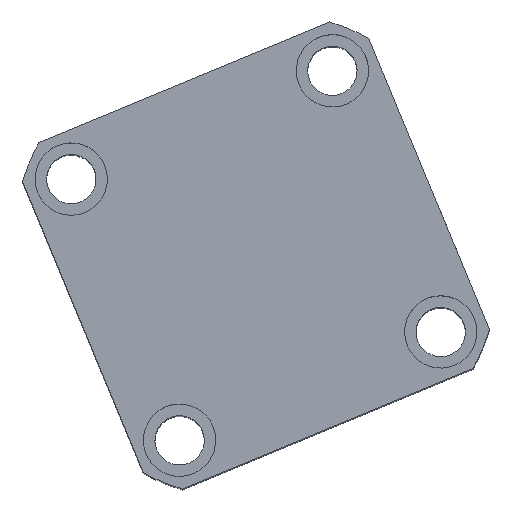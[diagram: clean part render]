
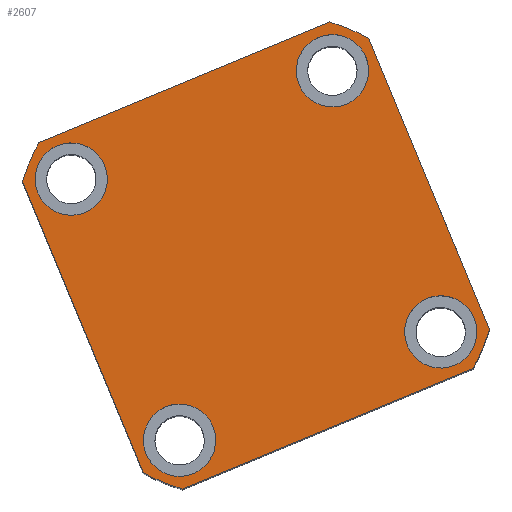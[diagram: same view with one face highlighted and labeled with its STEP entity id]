
A CAD part, top view. The second image highlights one B-rep face of the part: STEP entity #2607.
In plain terms, the highlighted planar face has unit normal (0, 0, 1) as drawn and (0, 0, -1) by its records, which use the part's own axes.
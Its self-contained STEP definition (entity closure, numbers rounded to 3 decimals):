
#21 = VERTEX_POINT ( 'NONE', #3861 ) ;
#61 = FACE_BOUND ( 'NONE', #3779, .T. ) ;
#132 = AXIS2_PLACEMENT_3D ( 'NONE', #8620, #1623, #9794 ) ;
#195 = CIRCLE ( 'NONE', #336, 11. ) ;
#207 = DIRECTION ( 'NONE',  ( 0., 0., 1. ) ) ;
#239 = ORIENTED_EDGE ( 'NONE', *, *, #6251, .F. ) ;
#281 = EDGE_CURVE ( 'NONE', #13582, #9256, #2935, .T. ) ;
#336 = AXIS2_PLACEMENT_3D ( 'NONE', #7060, #15235, #8238 ) ;
#372 = DIRECTION ( 'NONE',  ( 0., 0., -1. ) ) ;
#461 = DIRECTION ( 'NONE',  ( 0., -1., 0. ) ) ;
#669 = DIRECTION ( 'NONE',  ( 1., 0., 0. ) ) ;
#812 = CIRCLE ( 'NONE', #132, 74.5 ) ;
#896 = CARTESIAN_POINT ( 'NONE',  ( 57., 57., 0. ) ) ;
#1130 = EDGE_CURVE ( 'NONE', #11607, #12630, #3074, .T. ) ;
#1228 = EDGE_CURVE ( 'NONE', #2568, #14578, #7445, .T. ) ;
#1349 = LINE ( 'NONE', #1669, #13451 ) ;
#1401 = CARTESIAN_POINT ( 'NONE',  ( 0., 0., 0. ) ) ;
#1446 = PLANE ( 'NONE',  #15055 ) ;
#1603 = CARTESIAN_POINT ( 'NONE',  ( 47.971, -57., 0. ) ) ;
#1623 = DIRECTION ( 'NONE',  ( 0., 0., 1. ) ) ;
#1669 = CARTESIAN_POINT ( 'NONE',  ( -57., 57., 0. ) ) ;
#1793 = VERTEX_POINT ( 'NONE', #2803 ) ;
#1884 = EDGE_CURVE ( 'NONE', #21, #11607, #11847, .T. ) ;
#1931 = CARTESIAN_POINT ( 'NONE',  ( 32., -43., 0. ) ) ;
#2049 = CIRCLE ( 'NONE', #9213, 11. ) ;
#2095 = CARTESIAN_POINT ( 'NONE',  ( -43., 43., 0. ) ) ;
#2124 = CIRCLE ( 'NONE', #8336, 11. ) ;
#2332 = ORIENTED_EDGE ( 'NONE', *, *, #6796, .F. ) ;
#2337 = DIRECTION ( 'NONE',  ( 0., 0., -1. ) ) ;
#2345 = EDGE_CURVE ( 'NONE', #15110, #10530, #11660, .T. ) ;
#2406 = CARTESIAN_POINT ( 'NONE',  ( 43., -43., 0. ) ) ;
#2540 = VECTOR ( 'NONE', #5740, 1000. ) ;
#2568 = VERTEX_POINT ( 'NONE', #6020 ) ;
#2607 = ADVANCED_FACE ( 'NONE', ( #2915, #11832, #6364, #61, #9084 ), #1446, .F. ) ;
#2617 = DIRECTION ( 'NONE',  ( 1., 0., 0. ) ) ;
#2651 = CARTESIAN_POINT ( 'NONE',  ( 0., 0., 0. ) ) ;
#2716 = ORIENTED_EDGE ( 'NONE', *, *, #14914, .F. ) ;
#2794 = VERTEX_POINT ( 'NONE', #3094 ) ;
#2803 = CARTESIAN_POINT ( 'NONE',  ( -32., 43., 0. ) ) ;
#2900 = VERTEX_POINT ( 'NONE', #3237 ) ;
#2915 = FACE_BOUND ( 'NONE', #13642, .T. ) ;
#2935 = LINE ( 'NONE', #9667, #14969 ) ;
#3067 = ORIENTED_EDGE ( 'NONE', *, *, #6865, .F. ) ;
#3074 = CIRCLE ( 'NONE', #3445, 74.5 ) ;
#3094 = CARTESIAN_POINT ( 'NONE',  ( -54., -43., 0. ) ) ;
#3237 = CARTESIAN_POINT ( 'NONE',  ( -57., 47.971, 0. ) ) ;
#3296 = DIRECTION ( 'NONE',  ( -1., 0., 0. ) ) ;
#3417 = CARTESIAN_POINT ( 'NONE',  ( 0., 0., 0. ) ) ;
#3445 = AXIS2_PLACEMENT_3D ( 'NONE', #11987, #5020, #13173 ) ;
#3518 = VERTEX_POINT ( 'NONE', #12880 ) ;
#3590 = DIRECTION ( 'NONE',  ( -1., 0., 0. ) ) ;
#3779 = EDGE_LOOP ( 'NONE', ( #5434, #8541 ) ) ;
#3805 = VERTEX_POINT ( 'NONE', #6046 ) ;
#3832 = DIRECTION ( 'NONE',  ( 1., 0., 0. ) ) ;
#3859 = AXIS2_PLACEMENT_3D ( 'NONE', #4043, #12192, #5214 ) ;
#3861 = CARTESIAN_POINT ( 'NONE',  ( 57., -47.971, 0. ) ) ;
#4043 = CARTESIAN_POINT ( 'NONE',  ( 43., 43., 0. ) ) ;
#4075 = AXIS2_PLACEMENT_3D ( 'NONE', #1401, #9601, #2617 ) ;
#4599 = DIRECTION ( 'NONE',  ( 1., 0., 0. ) ) ;
#4703 = EDGE_CURVE ( 'NONE', #1793, #10712, #2124, .T. ) ;
#5020 = DIRECTION ( 'NONE',  ( 0., 0., 1. ) ) ;
#5214 = DIRECTION ( 'NONE',  ( -1., 0., 0. ) ) ;
#5434 = ORIENTED_EDGE ( 'NONE', *, *, #7237, .F. ) ;
#5740 = DIRECTION ( 'NONE',  ( 0., 1., 0. ) ) ;
#5957 = VECTOR ( 'NONE', #7881, 1000. ) ;
#6020 = CARTESIAN_POINT ( 'NONE',  ( 32., 43., 0. ) ) ;
#6046 = CARTESIAN_POINT ( 'NONE',  ( -32., -43., 0. ) ) ;
#6172 = CARTESIAN_POINT ( 'NONE',  ( 43., -43., 0. ) ) ;
#6251 = EDGE_CURVE ( 'NONE', #12630, #3518, #12175, .T. ) ;
#6364 = FACE_BOUND ( 'NONE', #8774, .T. ) ;
#6371 = DIRECTION ( 'NONE',  ( 0., 0., -1. ) ) ;
#6780 = CIRCLE ( 'NONE', #12843, 74.5 ) ;
#6796 = EDGE_CURVE ( 'NONE', #14578, #2568, #8324, .T. ) ;
#6865 = EDGE_CURVE ( 'NONE', #2900, #7411, #1349, .T. ) ;
#6932 = ORIENTED_EDGE ( 'NONE', *, *, #8599, .F. ) ;
#7060 = CARTESIAN_POINT ( 'NONE',  ( -43., -43., 0. ) ) ;
#7237 = EDGE_CURVE ( 'NONE', #10712, #1793, #9960, .T. ) ;
#7332 = DIRECTION ( 'NONE',  ( -1., 0., 0. ) ) ;
#7411 = VERTEX_POINT ( 'NONE', #13959 ) ;
#7439 = CARTESIAN_POINT ( 'NONE',  ( -43., -43., 0. ) ) ;
#7445 = CIRCLE ( 'NONE', #8104, 11. ) ;
#7554 = EDGE_CURVE ( 'NONE', #2794, #3805, #195, .T. ) ;
#7765 = CARTESIAN_POINT ( 'NONE',  ( 54., -43., 0. ) ) ;
#7881 = DIRECTION ( 'NONE',  ( -1., 0., 0. ) ) ;
#7932 = AXIS2_PLACEMENT_3D ( 'NONE', #7439, #372, #8627 ) ;
#8104 = AXIS2_PLACEMENT_3D ( 'NONE', #9338, #2337, #10502 ) ;
#8170 = ORIENTED_EDGE ( 'NONE', *, *, #2345, .F. ) ;
#8238 = DIRECTION ( 'NONE',  ( -1., 0., 0. ) ) ;
#8324 = CIRCLE ( 'NONE', #3859, 11. ) ;
#8336 = AXIS2_PLACEMENT_3D ( 'NONE', #13389, #6371, #14545 ) ;
#8459 = EDGE_CURVE ( 'NONE', #7411, #13582, #12500, .T. ) ;
#8541 = ORIENTED_EDGE ( 'NONE', *, *, #4703, .F. ) ;
#8599 = EDGE_CURVE ( 'NONE', #3805, #2794, #11051, .T. ) ;
#8620 = CARTESIAN_POINT ( 'NONE',  ( 0., 0., 0. ) ) ;
#8625 = CARTESIAN_POINT ( 'NONE',  ( 57., 47.971, 0. ) ) ;
#8627 = DIRECTION ( 'NONE',  ( -1., 0., 0. ) ) ;
#8774 = EDGE_LOOP ( 'NONE', ( #14399, #2332 ) ) ;
#8886 = ORIENTED_EDGE ( 'NONE', *, *, #281, .F. ) ;
#9084 = FACE_OUTER_BOUND ( 'NONE', #14390, .T. ) ;
#9213 = AXIS2_PLACEMENT_3D ( 'NONE', #2406, #10567, #3590 ) ;
#9256 = VERTEX_POINT ( 'NONE', #1603 ) ;
#9338 = CARTESIAN_POINT ( 'NONE',  ( 43., 43., 0. ) ) ;
#9601 = DIRECTION ( 'NONE',  ( 0., 0., 1. ) ) ;
#9667 = CARTESIAN_POINT ( 'NONE',  ( -57., -57., 0. ) ) ;
#9680 = ORIENTED_EDGE ( 'NONE', *, *, #7554, .F. ) ;
#9794 = DIRECTION ( 'NONE',  ( 1., 0., 0. ) ) ;
#9960 = CIRCLE ( 'NONE', #10097, 11. ) ;
#10033 = ORIENTED_EDGE ( 'NONE', *, *, #11221, .F. ) ;
#10097 = AXIS2_PLACEMENT_3D ( 'NONE', #2095, #10280, #3296 ) ;
#10267 = CARTESIAN_POINT ( 'NONE',  ( -54., 43., 0. ) ) ;
#10280 = DIRECTION ( 'NONE',  ( 0., 0., -1. ) ) ;
#10502 = DIRECTION ( 'NONE',  ( -1., 0., 0. ) ) ;
#10530 = VERTEX_POINT ( 'NONE', #1931 ) ;
#10567 = DIRECTION ( 'NONE',  ( 0., 0., -1. ) ) ;
#10712 = VERTEX_POINT ( 'NONE', #10267 ) ;
#10882 = CARTESIAN_POINT ( 'NONE',  ( -47.971, -57., 0. ) ) ;
#11001 = CARTESIAN_POINT ( 'NONE',  ( 47.971, 57., 0. ) ) ;
#11051 = CIRCLE ( 'NONE', #7932, 11. ) ;
#11074 = EDGE_LOOP ( 'NONE', ( #10033, #8170 ) ) ;
#11221 = EDGE_CURVE ( 'NONE', #10530, #15110, #2049, .T. ) ;
#11560 = DIRECTION ( 'NONE',  ( 0., 0., 1. ) ) ;
#11607 = VERTEX_POINT ( 'NONE', #8625 ) ;
#11644 = ORIENTED_EDGE ( 'NONE', *, *, #1130, .F. ) ;
#11660 = CIRCLE ( 'NONE', #13008, 11. ) ;
#11832 = FACE_BOUND ( 'NONE', #11074, .T. ) ;
#11847 = LINE ( 'NONE', #896, #2540 ) ;
#11987 = CARTESIAN_POINT ( 'NONE',  ( 0., 0., 0. ) ) ;
#12094 = EDGE_CURVE ( 'NONE', #3518, #2900, #6780, .T. ) ;
#12175 = LINE ( 'NONE', #14895, #5957 ) ;
#12192 = DIRECTION ( 'NONE',  ( 0., 0., -1. ) ) ;
#12375 = ORIENTED_EDGE ( 'NONE', *, *, #12094, .F. ) ;
#12500 = CIRCLE ( 'NONE', #4075, 74.5 ) ;
#12630 = VERTEX_POINT ( 'NONE', #11001 ) ;
#12843 = AXIS2_PLACEMENT_3D ( 'NONE', #3417, #11560, #4599 ) ;
#12880 = CARTESIAN_POINT ( 'NONE',  ( -47.971, 57., 0. ) ) ;
#13008 = AXIS2_PLACEMENT_3D ( 'NONE', #6172, #14332, #7332 ) ;
#13173 = DIRECTION ( 'NONE',  ( 1., 0., 0. ) ) ;
#13389 = CARTESIAN_POINT ( 'NONE',  ( -43., 43., 0. ) ) ;
#13451 = VECTOR ( 'NONE', #461, 1000. ) ;
#13582 = VERTEX_POINT ( 'NONE', #10882 ) ;
#13642 = EDGE_LOOP ( 'NONE', ( #9680, #6932 ) ) ;
#13672 = CARTESIAN_POINT ( 'NONE',  ( 54., 43., 0. ) ) ;
#13959 = CARTESIAN_POINT ( 'NONE',  ( -57., -47.971, 0. ) ) ;
#14332 = DIRECTION ( 'NONE',  ( 0., 0., -1. ) ) ;
#14390 = EDGE_LOOP ( 'NONE', ( #11644, #14749, #2716, #8886, #15115, #3067, #12375, #239 ) ) ;
#14399 = ORIENTED_EDGE ( 'NONE', *, *, #1228, .F. ) ;
#14545 = DIRECTION ( 'NONE',  ( -1., 0., 0. ) ) ;
#14578 = VERTEX_POINT ( 'NONE', #13672 ) ;
#14749 = ORIENTED_EDGE ( 'NONE', *, *, #1884, .F. ) ;
#14895 = CARTESIAN_POINT ( 'NONE',  ( -57., 57., 0. ) ) ;
#14914 = EDGE_CURVE ( 'NONE', #9256, #21, #812, .T. ) ;
#14969 = VECTOR ( 'NONE', #669, 1000. ) ;
#15055 = AXIS2_PLACEMENT_3D ( 'NONE', #2651, #207, #3832 ) ;
#15110 = VERTEX_POINT ( 'NONE', #7765 ) ;
#15115 = ORIENTED_EDGE ( 'NONE', *, *, #8459, .F. ) ;
#15235 = DIRECTION ( 'NONE',  ( 0., 0., -1. ) ) ;
